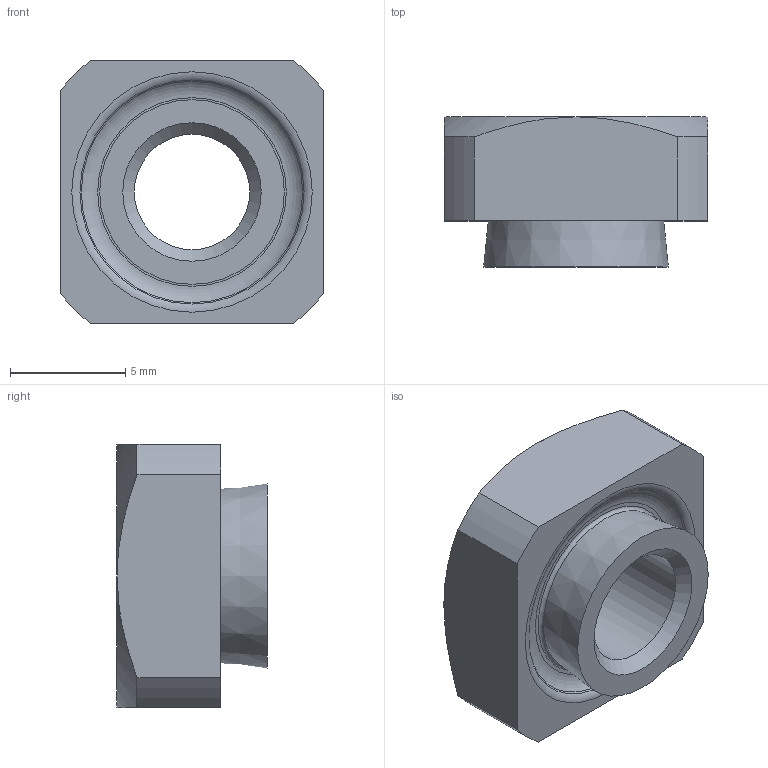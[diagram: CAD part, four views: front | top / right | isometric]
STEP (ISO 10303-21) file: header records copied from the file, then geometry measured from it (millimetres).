
FILE_DESCRIPTION(/* description */ (''),/* implementation_level */ '2;1');
FILE_NAME(/* name */ 'D:\Sukhmani\Fastit\HN Nut\HN 5-2.5.stp',/* time_stamp */ '2024-03-14T12:24:05+06:00',/* author */ ('edc.sukhmani'),/* organization */ (''),/* preprocessor_version */ 'ST-DEVELOPER v18.1',/* originating_system */ 'Autodesk Inventor 2022',/* authorisation */ '');
FILE_SCHEMA (('AUTOMOTIVE_DESIGN { 1 0 10303 214 3 1 1 }'));
Length unit declared in the file: millimetre
Products named in the file (1): HN 5-2.5
Bounding box: 11.4 x 6.5 x 11.4 mm (x, y, z)
Volume: 511.2 mm3; surface area: 556.9 mm2
Topology: 1 solids, 1 shells, 25 faces, 58 edges, 37 vertices
Faces by surface type: cone 8, plane 8, cylinder 6, torus 3
Full cylindrical faces by diameter (mm): 5 x1, 6 x1
Entity records: 763 total; most frequent: CARTESIAN_POINT 137, DIRECTION 134, ORIENTED_EDGE 116, EDGE_CURVE 58, AXIS2_PLACEMENT_3D 58, VERTEX_POINT 37, CIRCLE 32, EDGE_LOOP 29
